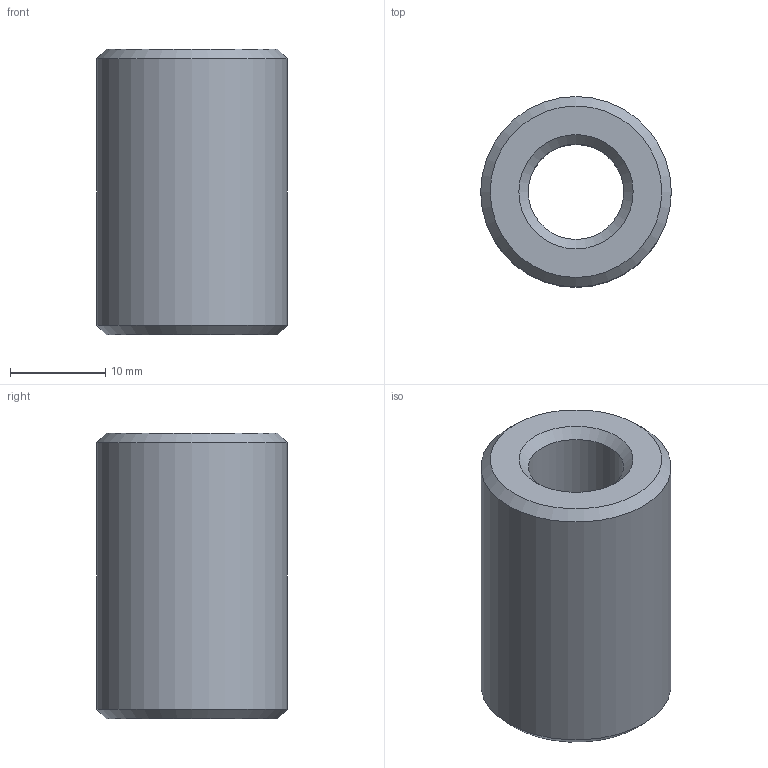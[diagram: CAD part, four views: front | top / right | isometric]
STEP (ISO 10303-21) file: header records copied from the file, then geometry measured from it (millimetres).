
FILE_DESCRIPTION( ( 'Unknown' ), '1' );
FILE_NAME( 'F:/navkite transat/construction/2016/3D ET ASSEMBLAGES/desal/DES 24.stp', 'Unknown', ( 'GMA' ), ( 'Unknown' ), 'XStep 1.0', 'Unknown', ' ' );
FILE_SCHEMA( ( 'automotive_design' ) );
Length unit declared in the file: millimetre
Products named in the file (1): 1
Bounding box: 20 x 20 x 30 mm (x, y, z)
Volume: 6974.3 mm3; surface area: 3188.3 mm2
Topology: 1 solids, 1 shells, 8 faces, 14 edges, 8 vertices
Faces by surface type: cone 4, cylinder 2, plane 2
Full cylindrical faces by diameter (mm): 10 x1, 20 x1
Entity records: 248 total; most frequent: DIRECTION 34, CARTESIAN_POINT 25, AXIS2_PLACEMENT_3D 17, EDGE_LOOP 16, ORIENTED_EDGE 16, FACE_OUTER_BOUND 10, STYLED_ITEM 8, PRESENTATION_STYLE_ASSIGNMENT 8
